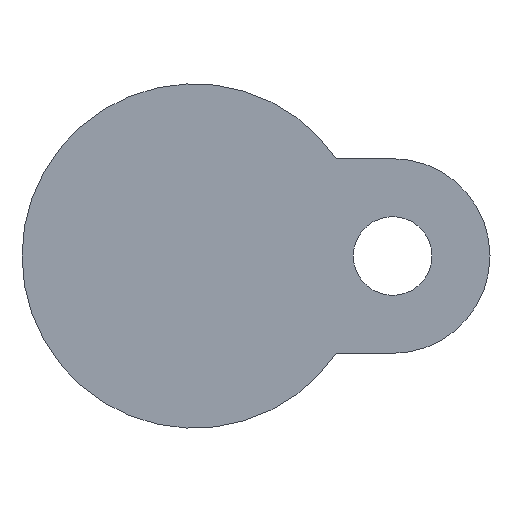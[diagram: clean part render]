
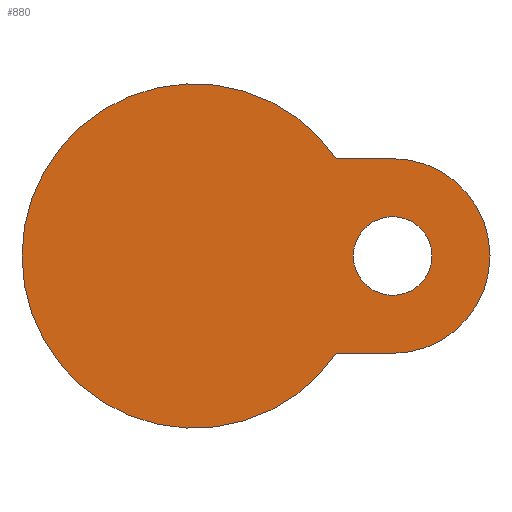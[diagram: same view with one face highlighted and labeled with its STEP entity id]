
A CAD part, front view. The second image highlights one B-rep face of the part: STEP entity #880.
In plain terms, the highlighted planar face has unit normal (0, -1, 0).
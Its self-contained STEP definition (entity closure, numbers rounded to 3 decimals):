
#37 = PLANE ( 'NONE',  #138 ) ;
#45 = FACE_OUTER_BOUND ( 'NONE', #553, .T. ) ;
#77 = DIRECTION ( 'NONE',  ( 1., 0., 0. ) ) ;
#84 = VECTOR ( 'NONE', #134, 1000. ) ;
#115 = EDGE_CURVE ( 'NONE', #262, #436, #345, .T. ) ;
#134 = DIRECTION ( 'NONE',  ( -1., 0., 0. ) ) ;
#138 = AXIS2_PLACEMENT_3D ( 'NONE', #952, #1400, #77 ) ;
#171 = DIRECTION ( 'NONE',  ( 0., -1., 0. ) ) ;
#221 = CIRCLE ( 'NONE', #1220, 13. ) ;
#262 = VERTEX_POINT ( 'NONE', #1337 ) ;
#280 = CARTESIAN_POINT ( 'NONE',  ( 0., -16., 0. ) ) ;
#285 = DIRECTION ( 'NONE',  ( 0., 1., 0. ) ) ;
#344 = ORIENTED_EDGE ( 'NONE', *, *, #806, .F. ) ;
#345 = CIRCLE ( 'NONE', #830, 5.25 ) ;
#382 = AXIS2_PLACEMENT_3D ( 'NONE', #1166, #930, #1051 ) ;
#392 = DIRECTION ( 'NONE',  ( 1., 0., 0. ) ) ;
#436 = VERTEX_POINT ( 'NONE', #1360 ) ;
#442 = ORIENTED_EDGE ( 'NONE', *, *, #1283, .F. ) ;
#462 = DIRECTION ( 'NONE',  ( 1., 0., 0. ) ) ;
#476 = VECTOR ( 'NONE', #462, 1000. ) ;
#479 = CARTESIAN_POINT ( 'NONE',  ( 13.5, -16., -13. ) ) ;
#508 = ORIENTED_EDGE ( 'NONE', *, *, #115, .T. ) ;
#516 = VERTEX_POINT ( 'NONE', #997 ) ;
#553 = EDGE_LOOP ( 'NONE', ( #879, #1458, #344, #442 ) ) ;
#585 = DIRECTION ( 'NONE',  ( 0., 1., 0. ) ) ;
#599 = EDGE_CURVE ( 'NONE', #668, #516, #811, .T. ) ;
#617 = CIRCLE ( 'NONE', #1447, 23. ) ;
#668 = VERTEX_POINT ( 'NONE', #1245 ) ;
#755 = CARTESIAN_POINT ( 'NONE',  ( 26.5, -16., 0. ) ) ;
#806 = EDGE_CURVE ( 'NONE', #1219, #668, #221, .T. ) ;
#811 = LINE ( 'NONE', #479, #84 ) ;
#830 = AXIS2_PLACEMENT_3D ( 'NONE', #1369, #585, #1382 ) ;
#855 = VERTEX_POINT ( 'NONE', #1172 ) ;
#879 = ORIENTED_EDGE ( 'NONE', *, *, #992, .T. ) ;
#880 = ADVANCED_FACE ( 'NONE', ( #1066, #45 ), #37, .T. ) ;
#930 = DIRECTION ( 'NONE',  ( 0., 1., 0. ) ) ;
#952 = CARTESIAN_POINT ( 'NONE',  ( 23., -16., 0. ) ) ;
#992 = EDGE_CURVE ( 'NONE', #855, #516, #617, .T. ) ;
#997 = CARTESIAN_POINT ( 'NONE',  ( 18.974, -16., -13. ) ) ;
#1047 = ORIENTED_EDGE ( 'NONE', *, *, #1280, .T. ) ;
#1051 = DIRECTION ( 'NONE',  ( -1., 0., 0. ) ) ;
#1061 = DIRECTION ( 'NONE',  ( 1., 0., 0. ) ) ;
#1066 = FACE_BOUND ( 'NONE', #1210, .T. ) ;
#1166 = CARTESIAN_POINT ( 'NONE',  ( 26.5, -16., 0. ) ) ;
#1172 = CARTESIAN_POINT ( 'NONE',  ( 18.974, -16., 13. ) ) ;
#1188 = CIRCLE ( 'NONE', #382, 5.25 ) ;
#1210 = EDGE_LOOP ( 'NONE', ( #508, #1047 ) ) ;
#1219 = VERTEX_POINT ( 'NONE', #1255 ) ;
#1220 = AXIS2_PLACEMENT_3D ( 'NONE', #755, #285, #392 ) ;
#1245 = CARTESIAN_POINT ( 'NONE',  ( 26.5, -16., -13. ) ) ;
#1255 = CARTESIAN_POINT ( 'NONE',  ( 26.5, -16., 13. ) ) ;
#1279 = CARTESIAN_POINT ( 'NONE',  ( 13.5, -16., 13. ) ) ;
#1280 = EDGE_CURVE ( 'NONE', #436, #262, #1188, .T. ) ;
#1283 = EDGE_CURVE ( 'NONE', #855, #1219, #1289, .T. ) ;
#1289 = LINE ( 'NONE', #1279, #476 ) ;
#1337 = CARTESIAN_POINT ( 'NONE',  ( 21.25, -16., 0. ) ) ;
#1360 = CARTESIAN_POINT ( 'NONE',  ( 31.75, -16., 0. ) ) ;
#1369 = CARTESIAN_POINT ( 'NONE',  ( 26.5, -16., 0. ) ) ;
#1382 = DIRECTION ( 'NONE',  ( -1., 0., 0. ) ) ;
#1400 = DIRECTION ( 'NONE',  ( 0., -1., 0. ) ) ;
#1447 = AXIS2_PLACEMENT_3D ( 'NONE', #280, #171, #1061 ) ;
#1458 = ORIENTED_EDGE ( 'NONE', *, *, #599, .F. ) ;
